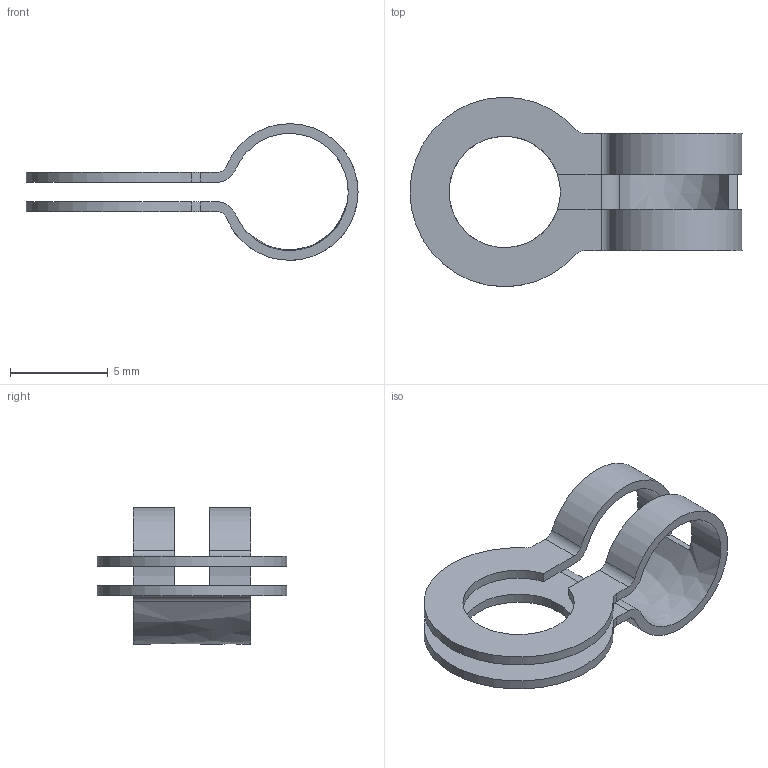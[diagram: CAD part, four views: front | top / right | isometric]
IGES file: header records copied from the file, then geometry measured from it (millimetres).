
Start section:  PTC IGES file: EB-933-4.igs
Global section: file name: EB-933-4.igs; native system: Creo Parametric by Parametric Technology Corporation; preprocessor: 2012360; author: xeon_4; organization: Unknown; date: 20130821.132511; units: millimetre
Bounding box: 17 x 9.7 x 7 mm (x, y, z)
Volume: 98.2 mm3; surface area: 469.9 mm2
Topology: 1 solids, 1 shells, 26 faces, 78 edges, 52 vertices
Faces by surface type: revolution 17, bspline 9
